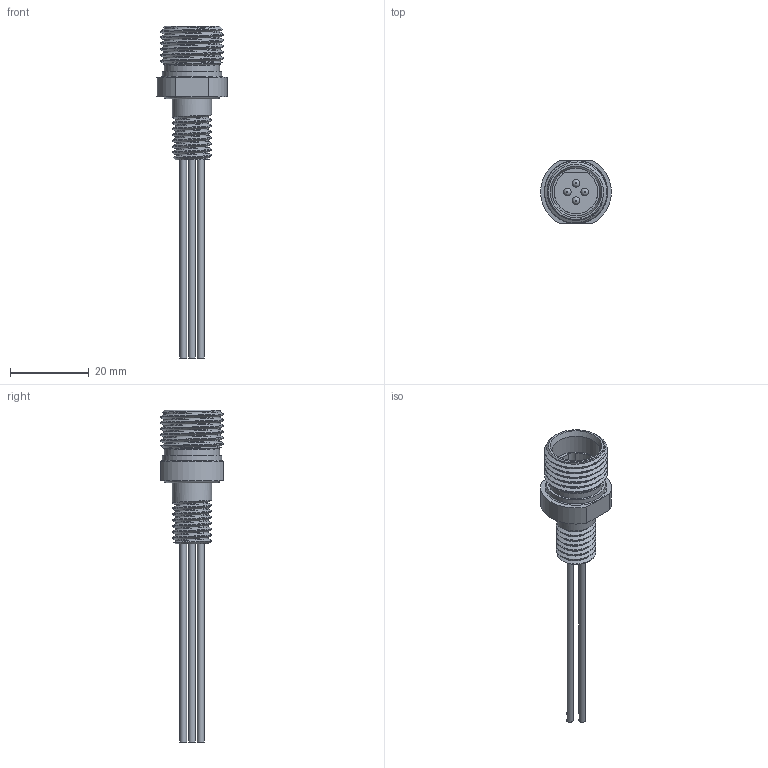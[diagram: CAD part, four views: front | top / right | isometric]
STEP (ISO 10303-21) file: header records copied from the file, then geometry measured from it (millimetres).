
FILE_DESCRIPTION (( 'STEP AP203' ), '1' );
FILE_NAME ('ASSY, BULKHEAD, COBALT.STEP', '2020-08-06T23:25:24', ( '' ), ( '' ), 'SwSTEP 2.0', 'SolidWorks 2020', '' );
FILE_SCHEMA (( 'CONFIG_CONTROL_DESIGN' ));
Length unit declared in the file: millimetre
Products named in the file (1): ASSY, BULKHEAD, COBALT
Bounding box: 17.94 x 16 x 84.25 mm (x, y, z)
Volume: 3521.6 mm3; surface area: 4329.7 mm2
Topology: 2 solids, 2 shells, 68 faces, 147 edges, 96 vertices
Faces by surface type: cylinder 29, plane 22, torus 6, bspline 6, cone 5
Full cylindrical faces by diameter (mm): 1.7 x4, 1.9 x4, 9.95 x7, 10.7 x1, 11.608 x1, 12.1 x1, 14 x1, 15.1 x1, 15.2 x1
Entity records: 5612 total; most frequent: CARTESIAN_POINT 4438, DIRECTION 224, ORIENTED_EDGE 186, AXIS2_PLACEMENT_3D 105, EDGE_LOOP 99, EDGE_CURVE 93, FACE_OUTER_BOUND 80, VERTEX_POINT 74
